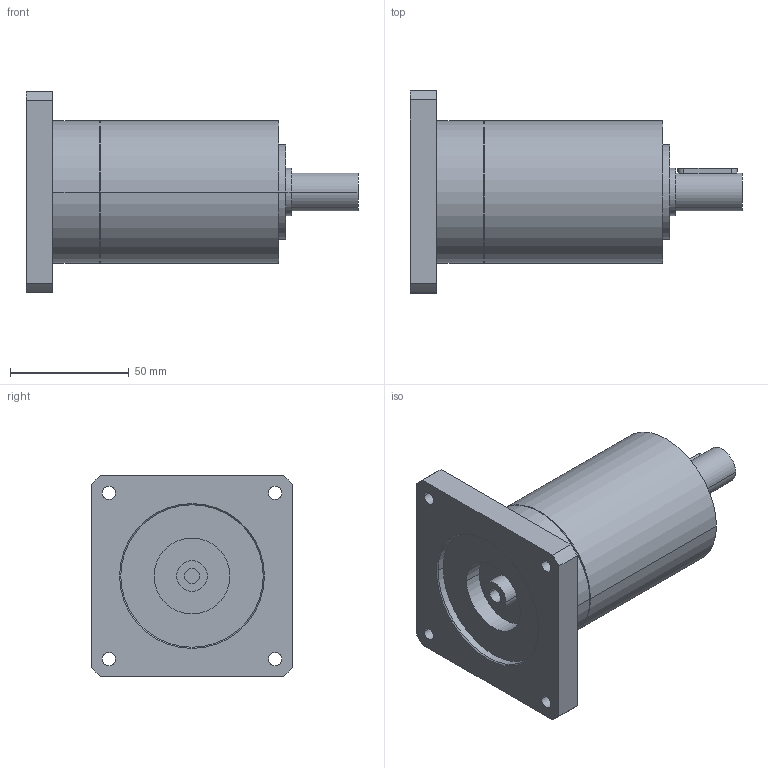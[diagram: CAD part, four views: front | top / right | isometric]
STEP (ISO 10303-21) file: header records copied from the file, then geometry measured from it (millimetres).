
FILE_DESCRIPTION(('CoCreate Modeling STEP Export'),'2;1');
FILE_NAME('GPR75_ig-9-12-16-20-24-30-36_16_B14_6.35_P33.stp','2014-08-25T16:04:23',(''),(''),'CoCreate Modeling STEP processor for AP214 (Solid Model)','CoCreate Modeling 16.00C 25-Feb-2009 (C) Parametric Technology GmbH','');
FILE_SCHEMA(('AUTOMOTIVE_DESIGN { 1 0 10303 214 1 1 1 1 }'));
Length unit declared in the file: millimetre
Products named in the file (2): GPR75_ig-9-12-16-20-24-30-36_16_B14_6.35_P33
Assembly tree (1 placements, depth 2):
  GPR75_ig-9-12-16-20-24-30-36_16_B14_6.35_P33
    GPR75_ig-9-12-16-20-24-30-36_16_B14_6.35_P33
Bounding box: 139.9 x 85 x 85 mm (x, y, z)
Volume: 341608.7 mm3; surface area: 41634.4 mm2
Topology: 1 solids, 1 shells, 72 faces, 185 edges, 127 vertices
Faces by surface type: cylinder 42, plane 22, cone 8
Entity records: 1944 total; most frequent: ORIENTED_EDGE 366, CARTESIAN_POINT 359, DIRECTION 268, EDGE_CURVE 183, VERTEX_POINT 127, AXIS2_PLACEMENT_3D 100, EDGE_LOOP 94, FACE_OUTER_BOUND 72
